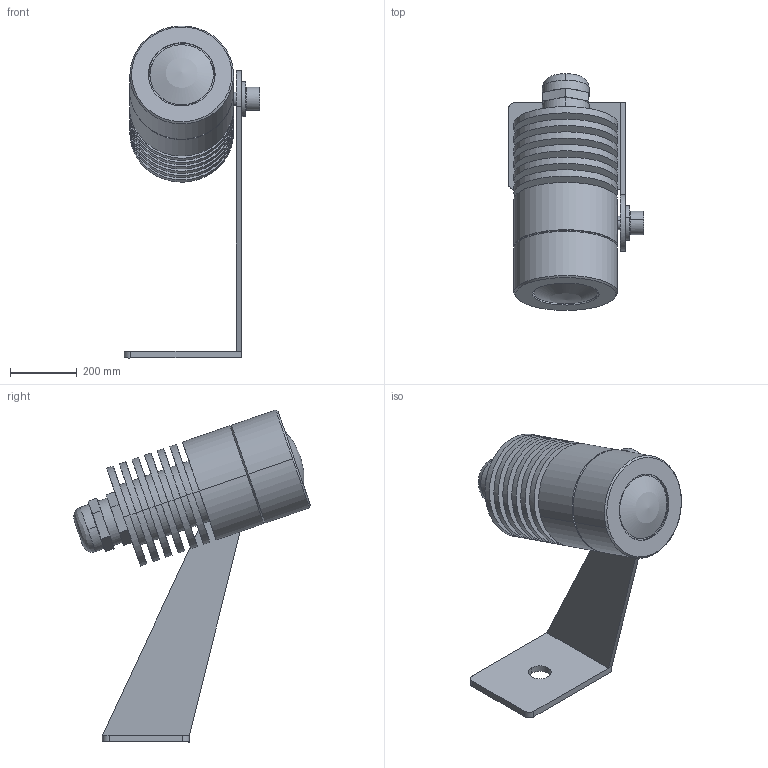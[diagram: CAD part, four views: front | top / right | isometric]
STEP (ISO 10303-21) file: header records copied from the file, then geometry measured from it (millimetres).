
FILE_DESCRIPTION(/* description */ (''),/* implementation_level */ '2;1');
FILE_NAME(/* name */ '4510',/* time_stamp */ '2022-01-20T16:36:51+01:00',/* author */ (''),/* organization */ (''),/* preprocessor_version */ 'ST-DEVELOPER v16.5',/* originating_system */ '',/* authorisation */ '');
FILE_SCHEMA (('CONFIG_CONTROL_DESIGN'));
Length unit declared in the file: centimetre
Products named in the file (1): Document
Bounding box: 405.76 x 709.13 x 993.61 mm (x, y, z)
Volume: 33591752.1 mm3; surface area: 2470511.6 mm2
Topology: 8 solids, 8 shells, 174 faces, 370 edges, 233 vertices
Faces by surface type: plane 86, cylinder 73, bspline 15
Entity records: 4587 total; most frequent: CARTESIAN_POINT 1889, ORIENTED_EDGE 740, EDGE_CURVE 370, VERTEX_POINT 233, EDGE_LOOP 207, B_SPLINE_CURVE_WITH_KNOTS 186, ADVANCED_FACE 174, FACE_OUTER_BOUND 174
